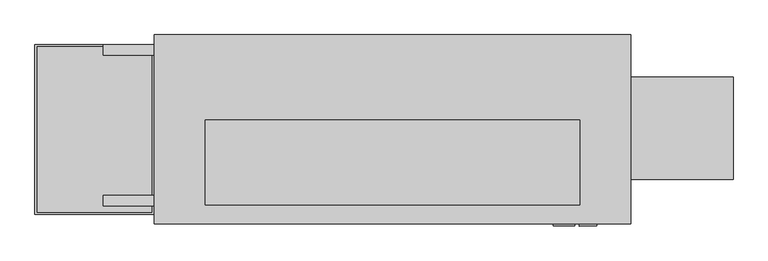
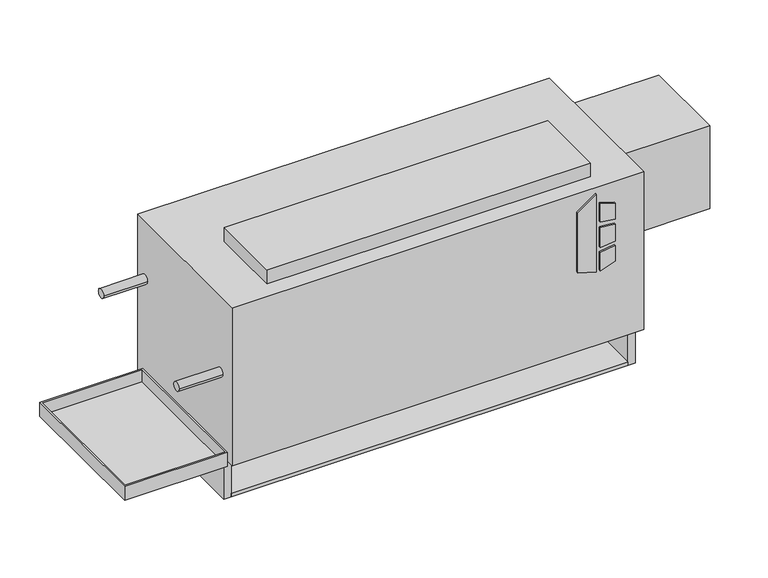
"""IFC4 building model written with IfcOpenShell, lengths in millimetres: proxy geometry, Concealed_Vertical_Low_Boy_Fan_Coil_Unit Fan_-_LHA_-_IEC_-_2-Pipe_LH_2022 : Size 03 - 277v/60Hz/1Ph - 2/1 Coil."""

from ifc_helpers import new_model, si_unit, point, frame, frame_2d, origin, origin_with_axes, place, context, project, spatial, polyline, circle_curve, trimmed, segment, composite_curve, outline, extrude, faceted_brep, source, transform, mapped, element, save


def mechanical_equipment_6a35b7af(model_context):
    return source(origin(), model_context, "Body", "SolidModel", [
        faceted_brep([(152.4, -252.4125, 92.075), (-25.4, -252.4125, 92.075), (-25.4, -506.4125, 92.075), (152.4, -506.4125, 92.075), (-22.225, -255.5875, 92.075), (149.225, -255.5875, 92.075), (149.225, -503.2375, 92.075), (-22.225, -503.2375, 92.075), (152.4, -252.4125, 66.675), (152.4, -506.4125, 66.675), (-25.4, -506.4125, 66.675), (-25.4, -252.4125, 66.675), (149.225, -255.5875, 69.8497888), (-22.225, -255.5875, 69.8497888), (-22.225, -503.2375, 69.8497888), (149.225, -503.2375, 69.8497888)], [[[0, 1, 2, 3], [4, 5, 6, 7]], [[8, 9, 10, 11]], [[1, 0, 8, 11]], [[2, 1, 11, 10]], [[3, 2, 10, 9]], [[0, 3, 9, 8]], [[12, 13, 14, 15]], [[13, 12, 5, 4]], [[14, 13, 4, 7]], [[15, 14, 7, 6]], [[12, 15, 6, 5]]]),
        extrude(outline(composite_curve([segment(trimmed(circle_curve(frame_2d((63.5, -379.4125)), 9.525), [point((53.975, -379.4125))], [point((73.025, -379.4125))], False, "CARTESIAN"), True, "CONTINUOUS"), segment(trimmed(circle_curve(frame_2d((63.5, -379.4125)), 9.525), [point((73.025, -379.4125))], [point((53.975, -379.4125))], False, "CARTESIAN"), True, "CONTINUOUS")], self_intersect=False)), frame((0.0, 0.0, 41.275), z_axis=(0.0, 0.0, 1.0), x_axis=(1.0, 0.0, 0.0)), (0.0, 0.0, 1.0), 25.4),
        extrude(outline(polyline([(222.6730703, 747.7868862), (212.725, 779.9602728), (354.8959244, 779.9602728), (331.8739183, 747.7868862), (222.6730703, 747.7868862)])), frame((0.0, -523.875, 0.0), z_axis=(0.0, 1.0, 0.0), x_axis=(0.0, 0.0, 1.0)), (0.0, 0.0, 1.0), 3.175),
        extrude(outline(polyline([(301.6723557, 786.7186058), (298.4699632, 812.8), (327.6988042, 812.8), (335.7632193, 786.7186058), (301.6723557, 786.7186058)])), frame((0.0, -523.875, 0.0), z_axis=(0.0, 1.0, 0.0), x_axis=(0.0, 0.0, 1.0)), (0.0, 0.0, 1.0), 3.175),
        extrude(outline(polyline([(249.8088288, 812.8), (246.1433279, 786.7186058), (212.725, 786.7186058), (221.3592372, 812.8), (249.8088288, 812.8)])), frame((0.0, -523.875, 0.0), z_axis=(0.0, 1.0, 0.0), x_axis=(0.0, 0.0, 1.0)), (0.0, 0.0, 1.0), 3.175),
        extrude(outline(polyline([(289.1239903, 812.8), (291.4058166, 786.7186058), (255.4682681, 786.7186058), (258.2095331, 812.8), (289.1239903, 812.8)])), frame((0.0, -523.875, 0.0), z_axis=(0.0, 1.0, 0.0), x_axis=(0.0, 0.0, 1.0)), (0.0, 0.0, 1.0), 3.175),
        extrude(outline(polyline([(787.4, -365.125), (787.4, -492.125), (228.6, -492.125), (228.6, -365.125), (787.4, -365.125)])), frame((0.0, 0.0, 365.125), z_axis=(0.0, 0.0, 1.0), x_axis=(1.0, 0.0, 0.0)), (0.0, 0.0, 1.0), 25.4),
        extrude(outline(polyline([(863.6, -520.7), (152.4, -520.7), (152.4, -238.125), (863.6, -238.125), (863.6, -520.7)])), frame((0.0, 0.0, 76.2), z_axis=(0.0, 0.0, 1.0), x_axis=(1.0, 0.0, 0.0)), (0.0, 0.0, 1.0), 288.925),
        extrude(outline(polyline([(850.9, -495.3), (165.1, -495.3), (165.1, -244.475), (850.9, -244.475), (850.9, -495.3)])), origin_with_axes(), (0.0, 0.0, 1.0), 6.35),
        extrude(outline(polyline([(850.9, -238.125), (850.9, -244.475), (165.1, -244.475), (165.1, -238.125), (850.9, -238.125)])), origin_with_axes(), (0.0, 0.0, 1.0), 76.2),
        extrude(outline(polyline([(863.6, -238.125), (863.6, -495.3), (850.9, -495.3), (850.9, -238.125), (863.6, -238.125)])), origin_with_axes(), (0.0, 0.0, 1.0), 76.2),
        extrude(outline(polyline([(165.1, -238.125), (165.1, -495.3), (152.4, -495.3), (152.4, -238.125), (165.1, -238.125)])), origin_with_axes(), (0.0, 0.0, 1.0), 76.2),
        extrude(outline(composite_curve([segment(trimmed(circle_curve(frame_2d((-260.35, 260.35)), 7.9375), [point((-252.4125, 260.35))], [point((-268.2875, 260.35))], False, "CARTESIAN"), True, "CONTINUOUS"), segment(trimmed(circle_curve(frame_2d((-260.35, 260.35)), 7.9375), [point((-268.2875, 260.35))], [point((-252.4125, 260.35))], False, "CARTESIAN"), True, "CONTINUOUS")], self_intersect=False)), frame((76.2, 0.0, 0.0), z_axis=(1.0, 0.0, 0.0), x_axis=(0.0, 1.0, 0.0)), (0.0, 0.0, 1.0), 76.2),
        extrude(outline(composite_curve([segment(trimmed(circle_curve(frame_2d((-485.775, 227.0125)), 7.9375), [point((-477.8375, 227.0125))], [point((-493.7125, 227.0125))], False, "CARTESIAN"), True, "CONTINUOUS"), segment(trimmed(circle_curve(frame_2d((-485.775, 227.0125)), 7.9375), [point((-493.7125, 227.0125))], [point((-477.8375, 227.0125))], False, "CARTESIAN"), True, "CONTINUOUS")], self_intersect=False)), frame((76.2, 0.0, 0.0), z_axis=(1.0, 0.0, 0.0), x_axis=(0.0, 1.0, 0.0)), (0.0, 0.0, 1.0), 76.2),
        extrude(outline(polyline([(863.6, -301.625), (1016.0, -301.625), (1016.0, -454.025), (863.6, -454.025), (863.6, -301.625)])), frame((0.0, 0.0, 203.5632719), z_axis=(0.0, 0.0, 1.0), x_axis=(1.0, 0.0, 0.0)), (0.0, 0.0, 1.0), 152.0367281),
    ])


if __name__ == "__main__":
    model = new_model("IFC4")
    model_context = context("Model", 3, world=origin())
    ifc_project = project(units=[si_unit("LENGTHUNIT", "METRE", prefix="MILLI")], contexts=[model_context])
    site = spatial("IfcSite", under=ifc_project)
    building = spatial("IfcBuilding", under=site)
    placement = place(None, origin())
    mechanical_equipment_shape = mechanical_equipment_6a35b7af(model_context)
    element("IfcBuildingElementProxy", 1, Name="Concealed_Vertical_Low_Boy_Fan_Coil_Unit Fan_-_LHA_-_IEC_-_2-Pipe_LH_2022 : Size 03 - 277v/60Hz/1Ph - 2/1 Coil", ObjectType="Concealed_Vertical_Low_Boy_Fan_Coil_Unit Fan_-_LHA_-_IEC_-_2-Pipe_LH_2022 : Size 03 - 277v/60Hz/1Ph - 2/1 Coil", at=placement, inside=building, context=model_context, shape_type="MappedRepresentation", body=[
        mapped(mechanical_equipment_shape, transform((0.0, 0.0, 0.0), x_axis=(1.0, 0.0, 0.0), y_axis=(0.0, 1.0, 0.0), z_axis=(0.0, 0.0, 1.0))),
    ])
    save(model, "model.ifc")
